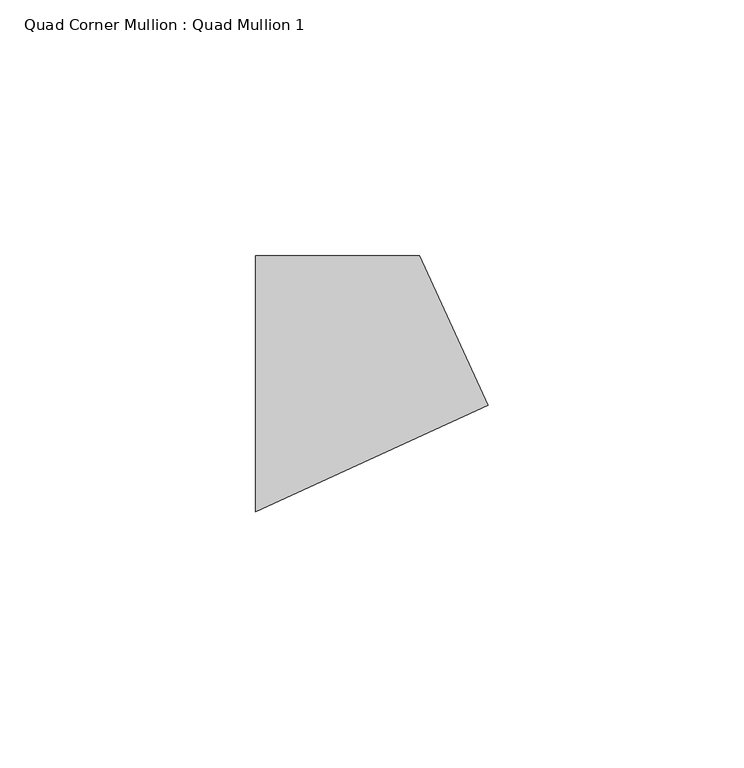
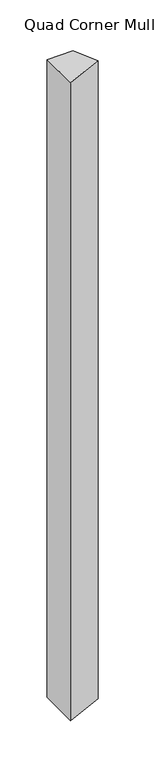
"""IFC4 building model written with IfcOpenShell, lengths in millimetres: member geometry, Quad Corner Mullion : Quad Mullion 1."""

from ifc_helpers import new_model, si_unit, frame, origin, place, context, project, spatial, polyline, outline, extrude, source, transform, mapped, element, save


def quad_corner_mullion_quad_mullion_1_953afaa4(model_context):
    return source(origin(), model_context, "Body", "SweptSolid", [
        extrude(outline(polyline([(29.4125559, -4.1926582), (-16.0523154, -25.0), (-16.0523154, 25.0), (16.0523154, 25.0), (29.4125559, -4.1926582)])), frame((0.0, 0.0, -825.0), z_axis=(0.0, 0.0, 1.0), x_axis=(1.0, 0.0, 0.0)), (0.0, 0.0, 1.0), 825.0),
    ])


if __name__ == "__main__":
    model = new_model("IFC4")
    model_context = context("Model", 3, world=origin())
    ifc_project = project(units=[si_unit("LENGTHUNIT", "METRE", prefix="MILLI")], contexts=[model_context])
    site = spatial("IfcSite", under=ifc_project)
    building = spatial("IfcBuilding", under=site)
    placement = place(None, origin())
    quad_corner_mullion_quad_mullion_1_shape = quad_corner_mullion_quad_mullion_1_953afaa4(model_context)
    element("IfcMember", 1, ObjectType="Quad Corner Mullion : Quad Mullion 1", at=placement, inside=building, context=model_context, shape_type="MappedRepresentation", body=[
        mapped(quad_corner_mullion_quad_mullion_1_shape, transform((0.0, 0.0, 0.0), x_axis=(1.0, 0.0, 0.0), y_axis=(0.0, 1.0, 0.0), z_axis=(0.0, 0.0, 1.0))),
    ])
    save(model, "model.ifc")
